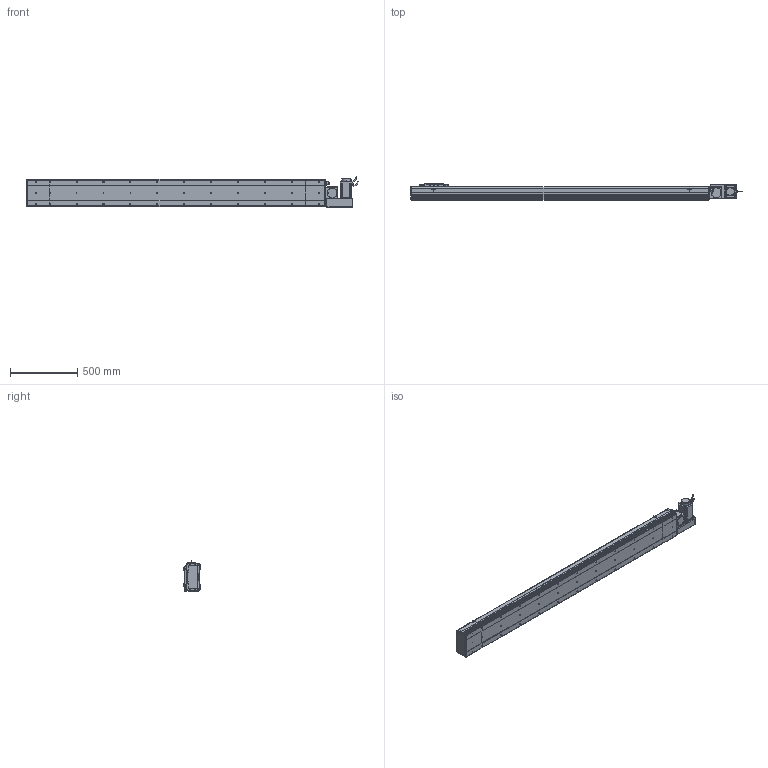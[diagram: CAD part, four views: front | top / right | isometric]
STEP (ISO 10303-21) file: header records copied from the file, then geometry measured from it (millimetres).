
FILE_DESCRIPTION (( 'STEP AP214' ), '1' );
FILE_NAME ('D20 CBH RH S1900.STEP', '2010-06-30T09:49:24', ( 'Conseil Régional Haute-Normandie' ), ( 'Conseil Régional Haute-Normandie' ), 'SwSTEP 2.0', 'SolidWorks 2010', '' );
FILE_SCHEMA (( 'AUTOMOTIVE_DESIGN' ));
Length unit declared in the file: millimetre
Products named in the file (31): Rondelle Cache D20 RH_Default; codeur 90BLDC125-640; Moteur motionking 90BLDC125A-640; Support moteur RH_Default; corps 90BLDC125A-640; Conecteur2_Default; avant 90BLDC125A-640; vis M5 L15_Default; Plaque De Serrage D20_Default; Plaque de Bout Tail D20_Default; Couvercle_Default; Corp Tail D20+100_Default; Corp D20 S1900_Default; Glissiere_Default; Chariot D20_Default; Tail D20+100_Default; Couvercle S1900_Default; Corp S1900_Default; vis M5 L47_Default; Support Chariot D20_Default; Cache Support Moteur RH_Default; vis M5 L30_Default; Conecteur_Default; ecrou_Default; Corp Tail D20 RH_Default; Head D20 RH_Default; D20 CBH RH S1900; Plaque De Serrage D20 RH_Default; Plaque de Bout Head D20 RH_Default; Couvercle RH_Default
Assembly tree (68 placements, depth 4):
  D20 CBH RH S1900
    Chariot D20_Default
      vis M5 L15_Default  x8
      Support Chariot D20_Default
      Chariot D20_Default
      Glissiere_Default
    Head D20 RH_Default
      vis M5 L15_Default  x14
      Support moteur RH_Default
      ecrou_Default  x4
      Corp Tail D20 RH_Default
      vis M5 L47_Default  x4
      Cache Support Moteur RH_Default
      vis M5 L30_Default  x4
      Rondelle Cache D20 RH_Default  x3
      Plaque de Bout Head D20 RH_Default
      Plaque De Serrage D20 RH_Default
      Couvercle RH_Default
      Moteur motionking 90BLDC125A-640
        corps 90BLDC125A-640
        Conecteur2_Default
        codeur 90BLDC125-640
        avant 90BLDC125A-640
        Conecteur_Default
    Corp D20 S1900_Default
      Couvercle S1900_Default
      Corp S1900_Default
    Tail D20+100_Default
      Plaque De Serrage D20_Default
      Couvercle_Default
      vis M5 L15_Default  x6
      Plaque de Bout Tail D20_Default
      Corp Tail D20+100_Default
Bounding box: 2465.45 x 119.5 x 229.7 mm (x, y, z)
Volume: 16292112.4 mm3; surface area: 3191992.3 mm2
Topology: 105 solids, 105 shells, 3820 faces, 9516 edges, 6178 vertices
Faces by surface type: plane 2131, bspline 806, cylinder 712, torus 95, cone 72, sphere 4
Entity records: 159590 total; most frequent: CARTESIAN_POINT 82346, ORIENTED_EDGE 15300, DIRECTION 11638, EDGE_CURVE 7650, VERTEX_POINT 5062, LINE 4954, VECTOR 4954, AXIS2_PLACEMENT_3D 3342
